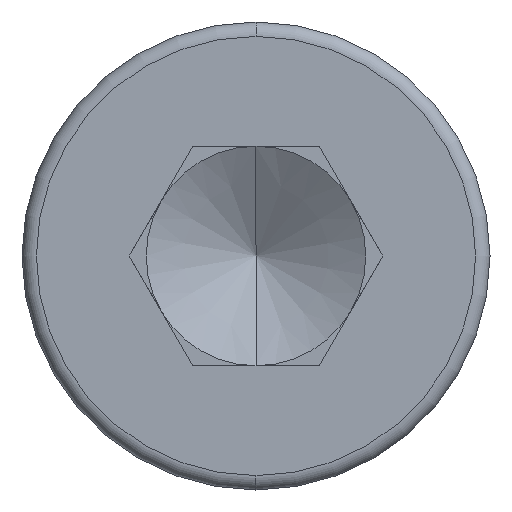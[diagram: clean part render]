
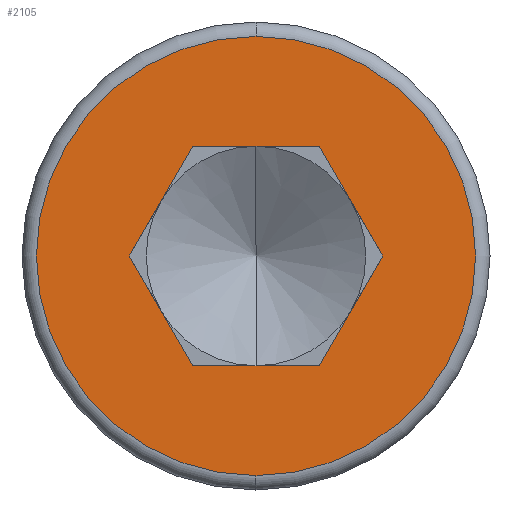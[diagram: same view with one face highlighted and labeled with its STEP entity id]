
A CAD part, left-side view. The second image highlights one B-rep face of the part: STEP entity #2105.
In plain terms, the highlighted planar face has unit normal (-1, 0, 0).
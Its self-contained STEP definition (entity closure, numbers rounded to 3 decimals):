
#25 = EDGE_CURVE ( 'NONE', #2512, #5087, #5014, .T. ) ;
#30 = VECTOR ( 'NONE', #4315, 1000. ) ;
#120 = EDGE_LOOP ( 'NONE', ( #1403, #5265 ) ) ;
#228 = CARTESIAN_POINT ( 'NONE',  ( 0., 0., 0. ) ) ;
#352 = CARTESIAN_POINT ( 'NONE',  ( 0., 3.519, 0. ) ) ;
#540 = CARTESIAN_POINT ( 'NONE',  ( 0., -1.759, 3.047 ) ) ;
#602 = VERTEX_POINT ( 'NONE', #352 ) ;
#720 = PLANE ( 'NONE',  #3389 ) ;
#759 = CARTESIAN_POINT ( 'NONE',  ( 0., -3.519, 0. ) ) ;
#893 = CARTESIAN_POINT ( 'NONE',  ( 0., -1.759, -3.048 ) ) ;
#927 = VECTOR ( 'NONE', #1966, 1000. ) ;
#977 = DIRECTION ( 'NONE',  ( 0., -0.5, -0.866 ) ) ;
#1005 = CIRCLE ( 'NONE', #4464, 6.1 ) ;
#1090 = DIRECTION ( 'NONE',  ( 0., -0.5, 0.866 ) ) ;
#1223 = CARTESIAN_POINT ( 'NONE',  ( 0., 0., 0. ) ) ;
#1339 = CARTESIAN_POINT ( 'NONE',  ( 0., 1.759, -3.048 ) ) ;
#1403 = ORIENTED_EDGE ( 'NONE', *, *, #3285, .T. ) ;
#1520 = CIRCLE ( 'NONE', #4575, 6.1 ) ;
#1529 = LINE ( 'NONE', #1859, #4689 ) ;
#1686 = DIRECTION ( 'NONE',  ( -1., 0., 0. ) ) ;
#1722 = DIRECTION ( 'NONE',  ( -1., 0., 0. ) ) ;
#1754 = ORIENTED_EDGE ( 'NONE', *, *, #2239, .T. ) ;
#1824 = EDGE_LOOP ( 'NONE', ( #2797, #4597, #1754, #2591, #3380, #2924 ) ) ;
#1859 = CARTESIAN_POINT ( 'NONE',  ( 0., 3.519, 0. ) ) ;
#1909 = CARTESIAN_POINT ( 'NONE',  ( 0., 1.759, 3.047 ) ) ;
#1966 = DIRECTION ( 'NONE',  ( 0., -0.5, -0.866 ) ) ;
#2045 = EDGE_CURVE ( 'NONE', #3895, #3695, #1520, .T. ) ;
#2105 = ADVANCED_FACE ( 'NONE', ( #3218, #5943 ), #720, .T. ) ;
#2239 = EDGE_CURVE ( 'NONE', #4725, #2512, #2413, .T. ) ;
#2413 = LINE ( 'NONE', #5606, #3779 ) ;
#2512 = VERTEX_POINT ( 'NONE', #3880 ) ;
#2524 = CARTESIAN_POINT ( 'NONE',  ( 0., 0., -6.1 ) ) ;
#2581 = VERTEX_POINT ( 'NONE', #5758 ) ;
#2591 = ORIENTED_EDGE ( 'NONE', *, *, #25, .T. ) ;
#2630 = CARTESIAN_POINT ( 'NONE',  ( 0., 0., 0. ) ) ;
#2744 = LINE ( 'NONE', #1339, #5585 ) ;
#2797 = ORIENTED_EDGE ( 'NONE', *, *, #5223, .T. ) ;
#2837 = CARTESIAN_POINT ( 'NONE',  ( 0., 0., 6.1 ) ) ;
#2894 = CARTESIAN_POINT ( 'NONE',  ( 0., 3.519, 0. ) ) ;
#2924 = ORIENTED_EDGE ( 'NONE', *, *, #5359, .F. ) ;
#2932 = VERTEX_POINT ( 'NONE', #1909 ) ;
#3110 = DIRECTION ( 'NONE',  ( -1., 0., 0. ) ) ;
#3218 = FACE_BOUND ( 'NONE', #1824, .T. ) ;
#3285 = EDGE_CURVE ( 'NONE', #3695, #3895, #1005, .T. ) ;
#3380 = ORIENTED_EDGE ( 'NONE', *, *, #5721, .F. ) ;
#3389 = AXIS2_PLACEMENT_3D ( 'NONE', #2630, #1686, #3579 ) ;
#3540 = DIRECTION ( 'NONE',  ( 0., 0., 1. ) ) ;
#3579 = DIRECTION ( 'NONE',  ( 0., 0., 1. ) ) ;
#3695 = VERTEX_POINT ( 'NONE', #2837 ) ;
#3779 = VECTOR ( 'NONE', #977, 1000. ) ;
#3825 = CARTESIAN_POINT ( 'NONE',  ( 0., -1.759, 3.047 ) ) ;
#3879 = VECTOR ( 'NONE', #4278, 1000. ) ;
#3880 = CARTESIAN_POINT ( 'NONE',  ( 0., -3.519, 0. ) ) ;
#3895 = VERTEX_POINT ( 'NONE', #2524 ) ;
#4278 = DIRECTION ( 'NONE',  ( 0., 0.5, -0.866 ) ) ;
#4315 = DIRECTION ( 'NONE',  ( 0., 1., 0. ) ) ;
#4464 = AXIS2_PLACEMENT_3D ( 'NONE', #228, #3110, #3540 ) ;
#4471 = DIRECTION ( 'NONE',  ( 0., 0., 1. ) ) ;
#4575 = AXIS2_PLACEMENT_3D ( 'NONE', #1223, #1722, #4471 ) ;
#4597 = ORIENTED_EDGE ( 'NONE', *, *, #6061, .F. ) ;
#4632 = DIRECTION ( 'NONE',  ( 0., -1., 0. ) ) ;
#4689 = VECTOR ( 'NONE', #1090, 1000. ) ;
#4725 = VERTEX_POINT ( 'NONE', #540 ) ;
#5014 = LINE ( 'NONE', #759, #3879 ) ;
#5087 = VERTEX_POINT ( 'NONE', #893 ) ;
#5223 = EDGE_CURVE ( 'NONE', #602, #2932, #1529, .T. ) ;
#5265 = ORIENTED_EDGE ( 'NONE', *, *, #2045, .T. ) ;
#5359 = EDGE_CURVE ( 'NONE', #602, #2581, #5755, .T. ) ;
#5585 = VECTOR ( 'NONE', #4632, 1000. ) ;
#5606 = CARTESIAN_POINT ( 'NONE',  ( 0., -1.759, 3.047 ) ) ;
#5721 = EDGE_CURVE ( 'NONE', #2581, #5087, #2744, .T. ) ;
#5729 = LINE ( 'NONE', #3825, #30 ) ;
#5755 = LINE ( 'NONE', #2894, #927 ) ;
#5758 = CARTESIAN_POINT ( 'NONE',  ( 0., 1.759, -3.048 ) ) ;
#5943 = FACE_OUTER_BOUND ( 'NONE', #120, .T. ) ;
#6061 = EDGE_CURVE ( 'NONE', #4725, #2932, #5729, .T. ) ;
